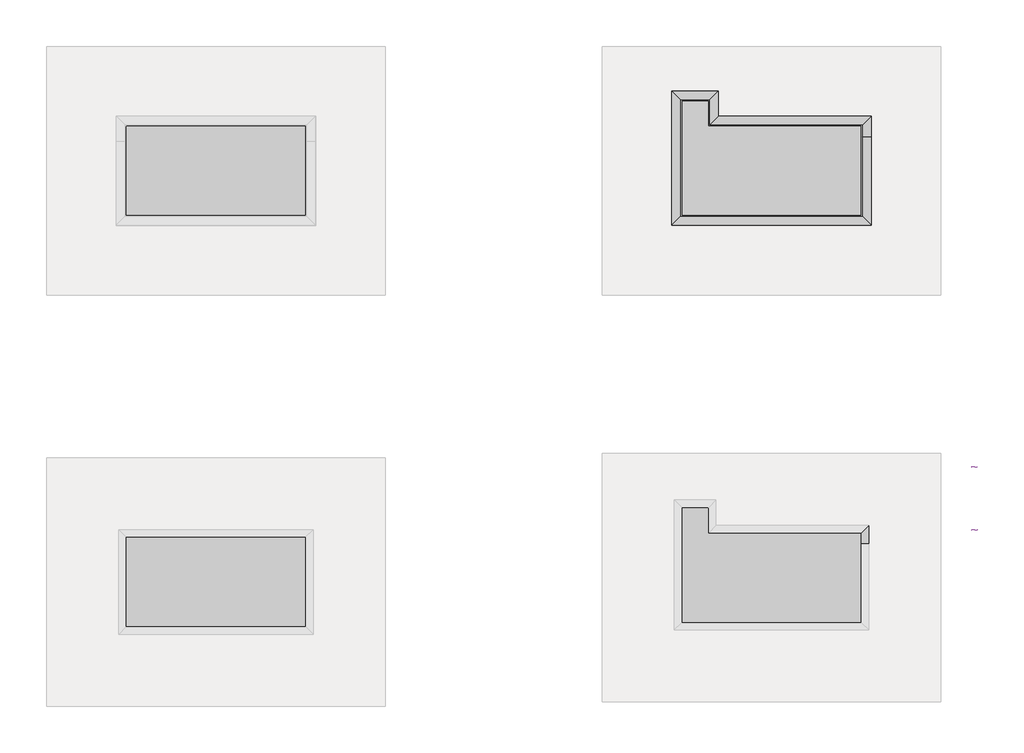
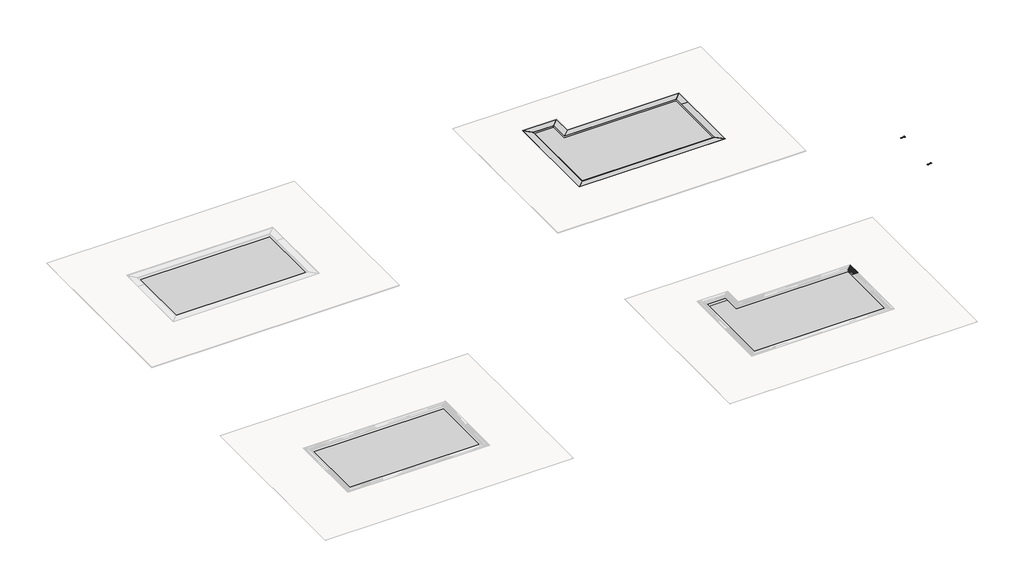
# One storey, part 8 of 8: 33 proxies.
"""IFC4 building model written with IfcOpenShell, lengths in millimetres."""

from ifc_helpers import new_model, si_unit, frame, origin, place, context, project, spatial, polyline, circle_curve, faceted_brep, transform, mapped, element, save
from ifc_brep_helpers import plane_surface, cylinder_surface, revolved_surface, advanced_brep
from components import generic_models_b0f7cce5, generic_models_22dde71d, generic_models_b073b66c, generic_models_fa50347c, generic_models_227ff7f2, generic_models_a90d31dc, generic_models_c740a98f, generic_models_2f643e7a, generic_models_adeb31d8, generic_models_0ded9d30, generic_models_3936827f, agua_piscina_1_agua_piscina_6_345880c8, agua_piscina_2_agua_piscina_5_6e25bc6c, agua_piscina_7_agua_piscina_6_79f9f0d3, agua_piscina_8_agua_piscina_5_d33188af

model = new_model("IFC4")

# Units and contexts
model_context = context("Model", 3, world=origin())
ifc_project = project(units=[si_unit("LENGTHUNIT", "METRE", prefix="MILLI")], contexts=[model_context])

# Site, building, storey
site = spatial("IfcSite", under=ifc_project)
building = spatial("IfcBuilding", under=site)
storey = spatial("IfcBuildingStorey", under=building, Name="EXAGRES_Serie YOHO_Piscinas_ejemplo", Elevation=0.0)

# Proxies
placement = place(None, origin())
element("IfcBuildingElementProxy", 1, Name="Wall Sweeps", at=placement, inside=storey, context=model_context, shape_type="Brep", body=[
    faceted_brep([(13505.1504813, -3881.1586753, -200.0), (13305.1504813, -4081.1586753, -200.0), (13105.1504813, -4281.1586753, -200.0), (13105.1504813, -4281.1586753, 0.0), (13505.1504813, -3881.1586753, 0.0), (20305.1504813, -3881.1586753, -200.0), (20305.1504813, -3881.1586753, 0.0), (19905.1504813, -4281.1586753, 0.0), (19905.1504813, -4281.1586753, -200.0), (20105.1504813, -4081.1586753, -200.0)], [[[0, 1, 2, 3, 4]], [[5, 6, 7, 8, 9]], [[3, 2, 8, 7]], [[2, 1, 0, 5, 9, 8]], [[4, 3, 7, 6]], [[0, 4, 6, 5]]]),
])
element("IfcBuildingElementProxy", 2, Name="Wall Sweeps", at=placement, inside=storey, context=model_context, shape_type="Brep", body=[
    faceted_brep([(20305.1504813, -3881.1586753, -200.0), (20105.1504813, -4081.1586753, -200.0), (19905.1504813, -4281.1586753, -200.0), (19905.1504813, -4281.1586753, 0.0), (20305.1504813, -3881.1586753, 0.0), (20305.1504813, -4813.6586753, -200.0), (20305.1504813, -4813.6586753, 0.0), (19905.1504813, -4813.6586753, 0.0), (19905.1504813, -4813.6586753, -200.0), (20105.1504813, -4813.6586753, -200.0)], [[[0, 1, 2, 3, 4]], [[5, 6, 7, 8, 9]], [[3, 2, 8, 7]], [[2, 1, 0, 5, 9, 8]], [[4, 3, 7, 6]], [[0, 4, 6, 5]]]),
])
element("IfcBuildingElementProxy", 3, Name="Wall Sweeps", at=placement, inside=storey, context=model_context, shape_type="Brep", body=[
    faceted_brep([(20305.1504813, -8731.1586753, -200.0), (19905.1504813, -8331.1586753, -200.0), (19905.1504813, -8331.1586753, 0.0), (20305.1504813, -8731.1586753, 0.0), (11455.1504813, -8731.1586753, -200.0), (11455.1504813, -8731.1586753, 0.0), (11855.1504813, -8331.1586753, 0.0), (11855.1504813, -8331.1586753, -200.0), (11655.1504813, -8531.1586753, -200.0)], [[[0, 1, 2, 3]], [[4, 5, 6, 7, 8]], [[2, 1, 7, 6]], [[1, 0, 4, 8, 7]], [[3, 2, 6, 5]], [[0, 3, 5, 4]]]),
])
element("IfcBuildingElementProxy", 4, Name="Wall Sweeps", at=placement, inside=storey, context=model_context, shape_type="Brep", body=[
    faceted_brep([(11455.1504813, -8731.1586753, -200.0), (11655.1504813, -8531.1586753, -200.0), (11855.1504813, -8331.1586753, -200.0), (11855.1504813, -8331.1586753, 0.0), (11455.1504813, -8731.1586753, 0.0), (11455.1504813, -2761.1586753, -200.0), (11455.1504813, -2761.1586753, 0.0), (11855.1504813, -3161.1586753, 0.0), (11855.1504813, -3161.1586753, -100.0), (11855.1504813, -3161.1586753, -109.0), (11855.1504813, -3161.1586753, -200.0), (11655.1504813, -2961.1586753, -200.0), (11855.1504813, -3702.2586753, -200.0), (11855.1504813, -3426.1586753, -200.0)], [[[0, 1, 2, 3, 4]], [[5, 6, 7, 8, 9, 10, 11]], [[3, 2, 12, 13, 10, 9, 8, 7]], [[2, 1, 0, 5, 11, 10, 13, 12]], [[4, 3, 7, 6]], [[0, 4, 6, 5]]]),
])
element("IfcBuildingElementProxy", 5, Name="Wall Sweeps", at=placement, inside=storey, context=model_context, shape_type="Brep", body=[
    faceted_brep([(13505.1504813, -3881.1586753, -200.0), (13505.1504813, -3881.1586753, 0.0), (13105.1504813, -4281.1586753, 0.0), (13105.1504813, -4281.1586753, -200.0), (13305.1504813, -4081.1586753, -200.0), (13505.1504813, -2761.1586753, -200.0), (13305.1504813, -2961.1586753, -200.0), (13105.1504813, -3161.1586753, -200.0), (13105.1504813, -3161.1586753, -109.0), (13105.1504813, -3161.1586753, -100.0), (13105.1504813, -3161.1586753, 0.0), (13505.1504813, -2761.1586753, 0.0), (13105.1504813, -3726.1586753, -200.0), (13105.1504813, -3702.2586753, -200.0), (13105.1504813, -3426.1586753, -200.0)], [[[0, 1, 2, 3, 4]], [[5, 6, 7, 8, 9, 10, 11]], [[0, 4, 3, 12, 13, 14, 7, 6, 5]], [[3, 2, 10, 9, 8, 7, 14, 13, 12]], [[1, 0, 5, 11]], [[2, 1, 11, 10]]]),
])
element("IfcBuildingElementProxy", 6, Name="Wall Sweeps", at=placement, inside=storey, context=model_context, shape_type="Brep", body=[
    faceted_brep([(11455.1504813, -2761.1586753, -200.0), (11655.1504813, -2961.1586753, -200.0), (11855.1504813, -3161.1586753, -200.0), (11855.1504813, -3161.1586753, -109.0), (11855.1504813, -3161.1586753, -100.0), (11855.1504813, -3161.1586753, 0.0), (11455.1504813, -2761.1586753, 0.0), (13105.1504813, -3161.1586753, -200.0), (13305.1504813, -2961.1586753, -200.0), (13505.1504813, -2761.1586753, -200.0), (13505.1504813, -2761.1586753, 0.0), (13105.1504813, -3161.1586753, 0.0), (13105.1504813, -3161.1586753, -100.0), (13105.1504813, -3161.1586753, -109.0), (13105.1504813, -3126.1586753, -109.0), (11855.1504813, -3126.1586753, -109.0), (11855.1504813, -3126.1586753, -100.0), (13105.1504813, -3126.1586753, -100.0)], [[[0, 1, 2, 3, 4, 5, 6]], [[7, 8, 9, 10, 11, 12, 13]], [[2, 7, 13, 3]], [[11, 5, 4, 12]], [[2, 1, 0, 9, 8, 7]], [[6, 5, 11, 10]], [[0, 6, 10, 9]], [[14, 15, 3, 13]], [[16, 17, 12, 4]], [[17, 14, 13, 12]], [[15, 16, 4, 3]], [[15, 14, 17, 16]]]),
])
element("IfcBuildingElementProxy", 7, Name="Wall Sweeps", at=placement, inside=storey, context=model_context, shape_type="Brep", body=[
    faceted_brep([(20305.1504813, -4813.6586753, -200.0), (20105.1504813, -4813.6586753, -200.0), (19905.1504813, -4813.6586753, -200.0), (19905.1504813, -4813.6586753, 0.0), (20305.1504813, -4813.6586753, 0.0), (20305.1504813, -8731.1586753, -200.0), (20305.1504813, -8731.1586753, 0.0), (19905.1504813, -8331.1586753, 0.0), (19905.1504813, -8331.1586753, -200.0), (19905.1504813, -8306.1586753, -200.0), (19905.1504813, -8306.1586753, 0.0)], [[[0, 1, 2, 3, 4]], [[5, 6, 7, 8]], [[2, 1, 0, 5, 8, 9]], [[3, 2, 9, 8, 7, 10]], [[4, 3, 10, 7, 6]], [[0, 4, 6, 5]]]),
])
element("IfcBuildingElementProxy", 8, Name="EXAGRES - Piscina Arista : Publica_Azul_24.5x3cm", ObjectType="EXAGRES - Piscina Arista : Publica_Azul_24.5x3cm", at=placement, inside=storey, context=model_context, shape_type="AdvancedBrep", body=[
    advanced_brep(
    [(11855.1504813, -4306.1586753, -423.9), (11855.1504813, -4282.2586753, -400.0), (11855.1504813, -4282.2586753, -406.4), (11855.1504813, -4299.7586753, -423.9), (13080.1504813, -4306.1586753, -423.9), (13080.1504813, -4299.7586753, -423.9), (13080.1504813, -4282.2586753, -406.4), (13080.1504813, -4282.2586753, -400.0), (11880.1504813, -4306.1586753, -423.9), (11880.1504813, -4282.2586753, -406.4), (11880.1504813, -4299.7586753, -423.9)],
    [
        (0, 1, circle_curve(frame((11855.1504813, -4282.2586753, -423.9), z_axis=(-1.0, 0.0, 0.0), x_axis=(0.0, 1.0, 0.0)), 23.9)),
        (1, 2),
        (2, 3, circle_curve(frame((11855.1504813, -4282.2586753, -423.9), z_axis=(1.0, 0.0, 0.0), x_axis=(0.0, 1.0, 0.0)), 17.5)),
        (3, 0),
        (4, 5),
        (5, 6, circle_curve(frame((13080.1504813, -4282.2586753, -423.9), z_axis=(-1.0, 0.0, 0.0), x_axis=(0.0, 1.0, 0.0)), 17.5)),
        (6, 7),
        (7, 4, circle_curve(frame((13080.1504813, -4282.2586753, -423.9), z_axis=(1.0, 0.0, 0.0), x_axis=(0.0, 1.0, 0.0)), 23.9)),
        (0, 8),
        (8, 4),
        (7, 1),
        (6, 9),
        (9, 2),
        (5, 10),
        (10, 3),
    ],
    [
        plane_surface(frame((11855.1504813, -4306.1586753, -400.0), z_axis=(-1.0, 0.0, 0.0), x_axis=(0.0, 0.0, 1.0))),
        plane_surface(frame((13080.1504813, -4306.1586753, -400.0), z_axis=(1.0, 0.0, 0.0), x_axis=(0.0, 0.0, 1.0))),
        cylinder_surface(frame((11855.1504813, -4282.2586753, -423.9), z_axis=(-1.0, 0.0, 0.0), x_axis=(0.0, 1.0, 0.0)), 23.9),
        plane_surface(frame((11855.1504813, -4282.2586753, -400.0), z_axis=(0.0, 1.0, 0.0), x_axis=(1.0, 0.0, 0.0))),
        revolved_surface(polyline([(13080.1504813, -4264.7586753, -423.9), (11855.1504813, -4264.7586753, -423.9)]), (11855.1504813, -4282.2586753, -423.9), (1.0, 0.0, 0.0)),
        plane_surface(frame((11855.1504813, -4299.7586753, -423.9), z_axis=(0.0, 0.0, -1.0), x_axis=(1.0, 0.0, 0.0))),
    ],
    [
        (0, [[1, 2, 3, 4]]),
        (1, [[5, 6, 7, 8]]),
        (2, [[-1, 9, 10, -8, 11]]),
        (3, [[-2, -11, -7, 12, 13]]),
        (4, [[-3, -13, -12, -6, 14, 15]]),
        (5, [[-4, -15, -14, -5, -10, -9]]),
    ],
),
])
element("IfcBuildingElementProxy", 9, Name="EXAGRES - Piscina Arista : Publica_Azul_24.5x3cm", ObjectType="EXAGRES - Piscina Arista : Publica_Azul_24.5x3cm", at=placement, inside=storey, context=model_context, shape_type="AdvancedBrep", body=[
    advanced_brep(
    [(11855.1504813, -4026.1586753, -323.9), (11855.1504813, -4002.2586753, -300.0), (11855.1504813, -4002.2586753, -306.4), (11855.1504813, -4019.7586753, -323.9), (13105.1504813, -4026.1586753, -323.9), (13105.1504813, -4019.7586753, -323.9), (13105.1504813, -4002.2586753, -306.4), (13105.1504813, -4002.2586753, -300.0), (11880.1504813, -4026.1586753, -323.9), (13080.1504813, -4026.1586753, -323.9), (13080.1504813, -4002.2586753, -306.4), (11880.1504813, -4002.2586753, -306.4), (13080.1504813, -4019.7586753, -323.9), (11880.1504813, -4019.7586753, -323.9)],
    [
        (0, 1, circle_curve(frame((11855.1504813, -4002.2586753, -323.9), z_axis=(-1.0, 0.0, 0.0), x_axis=(0.0, 1.0, 0.0)), 23.9)),
        (1, 2),
        (2, 3, circle_curve(frame((11855.1504813, -4002.2586753, -323.9), z_axis=(1.0, 0.0, 0.0), x_axis=(0.0, 1.0, 0.0)), 17.5)),
        (3, 0),
        (4, 5),
        (5, 6, circle_curve(frame((13105.1504813, -4002.2586753, -323.9), z_axis=(-1.0, 0.0, 0.0), x_axis=(0.0, 1.0, 0.0)), 17.5)),
        (6, 7),
        (7, 4, circle_curve(frame((13105.1504813, -4002.2586753, -323.9), z_axis=(1.0, 0.0, 0.0), x_axis=(0.0, 1.0, 0.0)), 23.9)),
        (0, 8),
        (8, 9),
        (9, 4),
        (7, 1),
        (6, 10),
        (10, 11),
        (11, 2),
        (5, 12),
        (12, 13),
        (13, 3),
    ],
    [
        plane_surface(frame((11855.1504813, -4026.1586753, -300.0), z_axis=(-1.0, 0.0, 0.0), x_axis=(0.0, 0.0, 1.0))),
        plane_surface(frame((13105.1504813, -4026.1586753, -300.0), z_axis=(1.0, 0.0, 0.0), x_axis=(0.0, 0.0, 1.0))),
        cylinder_surface(frame((11855.1504813, -4002.2586753, -323.9), z_axis=(-1.0, 0.0, 0.0), x_axis=(0.0, 1.0, 0.0)), 23.9),
        plane_surface(frame((11855.1504813, -4002.2586753, -300.0), z_axis=(0.0, 1.0, 0.0), x_axis=(1.0, 0.0, 0.0))),
        revolved_surface(polyline([(13105.1504813, -3984.7586753, -323.9), (11855.1504813, -3984.7586753, -323.9)]), (11855.1504813, -4002.2586753, -323.9), (1.0, 0.0, 0.0)),
        plane_surface(frame((11855.1504813, -4019.7586753, -323.9), z_axis=(0.0, 0.0, -1.0), x_axis=(1.0, 0.0, 0.0))),
    ],
    [
        (0, [[1, 2, 3, 4]]),
        (1, [[5, 6, 7, 8]]),
        (2, [[-1, 9, 10, 11, -8, 12]]),
        (3, [[-2, -12, -7, 13, 14, 15]]),
        (4, [[-3, -15, -14, -13, -6, 16, 17, 18]]),
        (5, [[-4, -18, -17, -16, -5, -11, -10, -9]]),
    ],
),
])
element("IfcBuildingElementProxy", 10, Name="EXAGRES - Piscina Arista : Publica_Azul_24.5x3cm", ObjectType="EXAGRES - Piscina Arista : Publica_Azul_24.5x3cm", at=placement, inside=storey, context=model_context, shape_type="AdvancedBrep", body=[
    advanced_brep(
    [(11855.1504813, -3726.1586753, -223.9), (11855.1504813, -3702.2586753, -200.0), (11855.1504813, -3702.2586753, -206.4), (11855.1504813, -3719.7586753, -223.9), (13105.1504813, -3726.1586753, -223.9), (13105.1504813, -3719.7586753, -223.9), (13105.1504813, -3702.2586753, -206.4), (13105.1504813, -3702.2586753, -200.0), (11880.1504813, -3726.1586753, -223.9), (13080.1504813, -3726.1586753, -223.9), (13080.1504813, -3702.2586753, -206.4), (11880.1504813, -3702.2586753, -206.4), (13080.1504813, -3719.7586753, -223.9), (11880.1504813, -3719.7586753, -223.9)],
    [
        (0, 1, circle_curve(frame((11855.1504813, -3702.2586753, -223.9), z_axis=(-1.0, 0.0, 0.0), x_axis=(0.0, 1.0, 0.0)), 23.9)),
        (1, 2),
        (2, 3, circle_curve(frame((11855.1504813, -3702.2586753, -223.9), z_axis=(1.0, 0.0, 0.0), x_axis=(0.0, 1.0, 0.0)), 17.5)),
        (3, 0),
        (4, 5),
        (5, 6, circle_curve(frame((13105.1504813, -3702.2586753, -223.9), z_axis=(-1.0, 0.0, 0.0), x_axis=(0.0, 1.0, 0.0)), 17.5)),
        (6, 7),
        (7, 4, circle_curve(frame((13105.1504813, -3702.2586753, -223.9), z_axis=(1.0, 0.0, 0.0), x_axis=(0.0, 1.0, 0.0)), 23.9)),
        (0, 8),
        (8, 9),
        (9, 4),
        (7, 1),
        (6, 10),
        (10, 11),
        (11, 2),
        (5, 12),
        (12, 13),
        (13, 3),
    ],
    [
        plane_surface(frame((11855.1504813, -3726.1586753, -200.0), z_axis=(-1.0, 0.0, 0.0), x_axis=(0.0, 0.0, 1.0))),
        plane_surface(frame((13105.1504813, -3726.1586753, -200.0), z_axis=(1.0, 0.0, 0.0), x_axis=(0.0, 0.0, 1.0))),
        cylinder_surface(frame((11855.1504813, -3702.2586753, -223.9), z_axis=(-1.0, 0.0, 0.0), x_axis=(0.0, 1.0, 0.0)), 23.9),
        plane_surface(frame((11855.1504813, -3702.2586753, -200.0), z_axis=(0.0, 1.0, 0.0), x_axis=(1.0, 0.0, 0.0))),
        revolved_surface(polyline([(13105.1504813, -3684.7586753, -223.9), (11855.1504813, -3684.7586753, -223.9)]), (11855.1504813, -3702.2586753, -223.9), (1.0, 0.0, 0.0)),
        plane_surface(frame((11855.1504813, -3719.7586753, -223.9), z_axis=(0.0, 0.0, -1.0), x_axis=(1.0, 0.0, 0.0))),
    ],
    [
        (0, [[1, 2, 3, 4]]),
        (1, [[5, 6, 7, 8]]),
        (2, [[-1, 9, 10, 11, -8, 12]]),
        (3, [[-2, -12, -7, 13, 14, 15]]),
        (4, [[-3, -15, -14, -13, -6, 16, 17, 18]]),
        (5, [[-4, -18, -17, -16, -5, -11, -10, -9]]),
    ],
),
])
element("IfcBuildingElementProxy", 11, Name="EXAGRES - Piscina Arista : Publica_Azul_24.5x3cm", ObjectType="EXAGRES - Piscina Arista : Publica_Azul_24.5x3cm", at=placement, inside=storey, context=model_context, shape_type="AdvancedBrep", body=[
    advanced_brep(
    [(13105.1504813, -3426.1586753, -123.9), (13105.1504813, -3419.7586753, -123.9), (13105.1504813, -3402.2586753, -106.4), (13105.1504813, -3402.2586753, -100.0), (11880.1504813, -3402.2586753, -100.0), (11880.1504813, -3426.1586753, -123.9), (13080.1504813, -3426.1586753, -123.9), (13080.1504813, -3402.2586753, -106.4), (11880.1504813, -3402.2586753, -106.4), (13080.1504813, -3419.7586753, -123.9), (11880.1504813, -3419.7586753, -123.9)],
    [
        (0, 1),
        (1, 2, circle_curve(frame((13105.1504813, -3402.2586753, -123.9), z_axis=(-1.0, 0.0, 0.0), x_axis=(0.0, 1.0, 0.0)), 17.5)),
        (2, 3),
        (3, 0, circle_curve(frame((13105.1504813, -3402.2586753, -123.9), z_axis=(1.0, 0.0, 0.0), x_axis=(0.0, 1.0, 0.0)), 23.9)),
        (3, 4),
        (4, 5, circle_curve(frame((11880.1504813, -3402.2586753, -123.9), z_axis=(1.0, 0.0, 0.0), x_axis=(0.0, 1.0, 0.0)), 23.9)),
        (5, 6),
        (6, 0),
        (2, 7),
        (7, 8),
        (8, 4),
        (1, 9),
        (9, 10),
        (10, 8, circle_curve(frame((11880.1504813, -3402.2586753, -123.9), z_axis=(-1.0, 0.0, 0.0), x_axis=(0.0, 1.0, 0.0)), 17.5)),
        (5, 10),
    ],
    [
        plane_surface(frame((13105.1504813, -3426.1586753, -100.0), z_axis=(1.0, 0.0, 0.0), x_axis=(0.0, 0.0, 1.0))),
        cylinder_surface(frame((11855.1504813, -3402.2586753, -123.9), z_axis=(-1.0, 0.0, 0.0), x_axis=(0.0, 1.0, 0.0)), 23.9),
        plane_surface(frame((11855.1504813, -3402.2586753, -100.0), z_axis=(0.0, 1.0, 0.0), x_axis=(1.0, 0.0, 0.0))),
        revolved_surface(polyline([(13105.1504813, -3384.7586753, -123.9), (11880.1504813, -3384.7586753, -123.9)]), (11855.1504813, -3402.2586753, -123.9), (1.0, 0.0, 0.0)),
        plane_surface(frame((11855.1504813, -3419.7586753, -123.9), z_axis=(0.0, 0.0, -1.0), x_axis=(1.0, 0.0, 0.0))),
        plane_surface(frame((11880.1504813, -8306.1586753, -500.0), z_axis=(-1.0, 0.0, 0.0), x_axis=(0.0, 1.0, 0.0))),
    ],
    [
        (0, [[1, 2, 3, 4]]),
        (1, [[-4, 5, 6, 7, 8]]),
        (2, [[-3, 9, 10, 11, -5]]),
        (3, [[-2, 12, 13, 14, -10, -9]]),
        (4, [[-1, -8, -7, 15, -13, -12]]),
        (5, [[-6, -11, -14, -15]]),
    ],
),
])
element("IfcBuildingElementProxy", 12, Name="Wall Sweeps", at=placement, inside=storey, context=model_context, shape_type="Brep", body=[
    faceted_brep([(19893.1504813, -22393.1586753, 0.0), (19880.1504813, -22406.1586753, 0.0), (19880.1504813, -22406.1586753, 33.0), (20210.1504813, -22076.1586753, 33.0), (20210.1504813, -22076.1586753, 21.0), (20204.1504813, -22082.1586753, 21.0), (20204.1504813, -22082.1586753, 22.0), (20200.1504813, -22086.1586753, 22.0), (20200.1504813, -22086.1586753, 21.0), (20194.1504813, -22092.1586753, 21.0), (20194.1504813, -22092.1586753, 22.0), (20190.1504813, -22096.1586753, 22.0), (20190.1504813, -22096.1586753, 21.0), (20184.1504813, -22102.1586753, 21.0), (20184.1504813, -22102.1586753, 22.0), (20180.1504813, -22106.1586753, 22.0), (20180.1504813, -22106.1586753, 21.0), (20174.1504813, -22112.1586753, 21.0), (20174.1504813, -22112.1586753, 22.0), (20170.1504813, -22116.1586753, 22.0), (20170.1504813, -22116.1586753, 21.0), (20164.1504813, -22122.1586753, 21.0), (20164.1504813, -22122.1586753, 22.0), (20160.1504813, -22126.1586753, 22.0), (20160.1504813, -22126.1586753, 21.0), (20154.1504813, -22132.1586753, 21.0), (20154.1504813, -22132.1586753, 22.0), (20150.1504813, -22136.1586753, 22.0), (20150.1504813, -22136.1586753, 21.0), (20144.1504813, -22142.1586753, 21.0), (20144.1504813, -22142.1586753, 22.0), (20140.1504813, -22146.1586753, 22.0), (20140.1504813, -22146.1586753, 21.0), (20134.1504813, -22152.1586753, 21.0), (20134.1504813, -22152.1586753, 22.0), (20130.1504813, -22156.1586753, 22.0), (20130.1504813, -22156.1586753, 21.0), (20124.1504813, -22162.1586753, 21.0), (20124.1504813, -22162.1586753, 22.0), (20120.1504813, -22166.1586753, 22.0), (20120.1504813, -22166.1586753, 21.0), (20114.1504813, -22172.1586753, 21.0), (20114.1504813, -22172.1586753, 22.0), (20110.1504813, -22176.1586753, 22.0), (20110.1504813, -22176.1586753, 21.0), (20104.1504813, -22182.1586753, 21.0), (20104.1504813, -22182.1586753, 22.0), (20100.1504813, -22186.1586753, 22.0), (20100.1504813, -22186.1586753, 21.0), (20094.1504813, -22192.1586753, 21.0), (20094.1504813, -22192.1586753, 22.0), (20090.1504813, -22196.1586753, 22.0), (20090.1504813, -22196.1586753, 21.0), (20084.1504813, -22202.1586753, 21.0), (20084.1504813, -22202.1586753, 22.0), (20080.1504813, -22206.1586753, 22.0), (20080.1504813, -22206.1586753, 21.0), (20074.1504813, -22212.1586753, 21.0), (20074.1504813, -22212.1586753, 22.0), (20070.1504813, -22216.1586753, 22.0), (20070.1504813, -22216.1586753, 21.0), (20064.1504813, -22222.1586753, 21.0), (20064.1504813, -22222.1586753, 22.0), (20060.1504813, -22226.1586753, 22.0), (20060.1504813, -22226.1586753, 21.0), (20054.1504813, -22232.1586753, 21.0), (20054.1504813, -22232.1586753, 22.0), (20050.1504813, -22236.1586753, 22.0), (20050.1504813, -22236.1586753, 21.0), (20044.1504813, -22242.1586753, 21.0), (20044.1504813, -22242.1586753, 22.0), (20040.1504813, -22246.1586753, 22.0), (20040.1504813, -22246.1586753, 21.0), (20034.1504813, -22252.1586753, 21.0), (20034.1504813, -22252.1586753, 22.0), (20030.1504813, -22256.1586753, 22.0), (20030.1504813, -22256.1586753, 21.0), (20024.1504813, -22262.1586753, 21.0), (20024.1504813, -22262.1586753, 22.0), (20020.1504813, -22266.1586753, 22.0), (20020.1504813, -22266.1586753, 21.0), (20014.1504813, -22272.1586753, 21.0), (20014.1504813, -22272.1586753, 22.0), (20010.1504813, -22276.1586753, 22.0), (20010.1504813, -22276.1586753, 21.0), (20004.1504813, -22282.1586753, 21.0), (20004.1504813, -22282.1586753, 22.0), (20000.1504813, -22286.1586753, 22.0), (20000.1504813, -22286.1586753, 21.0), (19994.1504813, -22292.1586753, 21.0), (19994.1504813, -22292.1586753, 22.0), (19990.1504813, -22296.1586753, 22.0), (19990.1504813, -22296.1586753, 21.0), (19984.1504813, -22302.1586753, 21.0), (19984.1504813, -22302.1586753, 22.0), (19980.1504813, -22306.1586753, 22.0), (19980.1504813, -22306.1586753, 21.0), (19974.1504813, -22312.1586753, 21.0), (19974.1504813, -22312.1586753, 22.0), (19970.1504813, -22316.1586753, 22.0), (19970.1504813, -22316.1586753, 21.0), (19964.1504813, -22322.1586753, 21.0), (19964.1504813, -22322.1586753, 22.0), (19960.1504813, -22326.1586753, 22.0), (19960.1504813, -22326.1586753, 21.0), (19954.1504813, -22332.1586753, 21.0), (19954.1504813, -22332.1586753, 22.0), (19950.1504813, -22336.1586753, 22.0), (19950.1504813, -22336.1586753, 21.0), (19944.1504813, -22342.1586753, 21.0), (19944.1504813, -22342.1586753, 22.0), (19940.1504813, -22346.1586753, 22.0), (19940.1504813, -22346.1586753, 21.0), (19934.1504813, -22352.1586753, 21.0), (19934.1504813, -22352.1586753, 22.0), (19930.1504813, -22356.1586753, 22.0), (19930.1504813, -22356.1586753, 21.0), (19924.1504813, -22362.1586753, 21.0), (19924.1504813, -22362.1586753, 22.0), (19920.1504813, -22366.1586753, 22.0), (19920.1504813, -22366.1586753, 21.0), (19914.1504813, -22372.1586753, 21.0), (19914.1504813, -22372.1586753, 22.0), (19910.1504813, -22376.1586753, 22.0), (19910.1504813, -22376.1586753, 21.0), (19904.1504813, -22382.1586753, 21.0), (19904.1504813, -22382.1586753, 22.0), (19900.1504813, -22386.1586753, 22.0), (19900.1504813, -22386.1586753, 21.0), (19893.1504813, -22393.1586753, 21.0), (19893.1504813, -22393.1586753, 14.0), (19892.1504813, -22394.1586753, 14.0), (19892.1504813, -22394.1586753, 8.0), (19893.1504813, -22393.1586753, 8.0), (19893.1504813, -22913.6586753, 0.0), (19893.1504813, -22913.6586753, 8.0), (19892.1504813, -22913.6586753, 8.0), (19892.1504813, -22913.6586753, 14.0), (19893.1504813, -22913.6586753, 14.0), (19893.1504813, -22913.6586753, 21.0), (19900.1504813, -22913.6586753, 21.0), (19900.1504813, -22913.6586753, 22.0), (19904.1504813, -22913.6586753, 22.0), (19904.1504813, -22913.6586753, 21.0), (19910.1504813, -22913.6586753, 21.0), (19910.1504813, -22913.6586753, 22.0), (19914.1504813, -22913.6586753, 22.0), (19914.1504813, -22913.6586753, 21.0), (19920.1504813, -22913.6586753, 21.0), (19920.1504813, -22913.6586753, 22.0), (19924.1504813, -22913.6586753, 22.0), (19924.1504813, -22913.6586753, 21.0), (19930.1504813, -22913.6586753, 21.0), (19930.1504813, -22913.6586753, 22.0), (19934.1504813, -22913.6586753, 22.0), (19934.1504813, -22913.6586753, 21.0), (19940.1504813, -22913.6586753, 21.0), (19940.1504813, -22913.6586753, 22.0), (19944.1504813, -22913.6586753, 22.0), (19944.1504813, -22913.6586753, 21.0), (19950.1504813, -22913.6586753, 21.0), (19950.1504813, -22913.6586753, 22.0), (19954.1504813, -22913.6586753, 22.0), (19954.1504813, -22913.6586753, 21.0), (19960.1504813, -22913.6586753, 21.0), (19960.1504813, -22913.6586753, 22.0), (19964.1504813, -22913.6586753, 22.0), (19964.1504813, -22913.6586753, 21.0), (19970.1504813, -22913.6586753, 21.0), (19970.1504813, -22913.6586753, 22.0), (19974.1504813, -22913.6586753, 22.0), (19974.1504813, -22913.6586753, 21.0), (19980.1504813, -22913.6586753, 21.0), (19980.1504813, -22913.6586753, 22.0), (19984.1504813, -22913.6586753, 22.0), (19984.1504813, -22913.6586753, 21.0), (19990.1504813, -22913.6586753, 21.0), (19990.1504813, -22913.6586753, 22.0), (19994.1504813, -22913.6586753, 22.0), (19994.1504813, -22913.6586753, 21.0), (20000.1504813, -22913.6586753, 21.0), (20000.1504813, -22913.6586753, 22.0), (20004.1504813, -22913.6586753, 22.0), (20004.1504813, -22913.6586753, 21.0), (20010.1504813, -22913.6586753, 21.0), (20010.1504813, -22913.6586753, 22.0), (20014.1504813, -22913.6586753, 22.0), (20014.1504813, -22913.6586753, 21.0), (20020.1504813, -22913.6586753, 21.0), (20020.1504813, -22913.6586753, 22.0), (20024.1504813, -22913.6586753, 22.0), (20024.1504813, -22913.6586753, 21.0), (20030.1504813, -22913.6586753, 21.0), (20030.1504813, -22913.6586753, 22.0), (20034.1504813, -22913.6586753, 22.0), (20034.1504813, -22913.6586753, 21.0), (20040.1504813, -22913.6586753, 21.0), (20040.1504813, -22913.6586753, 22.0), (20044.1504813, -22913.6586753, 22.0), (20044.1504813, -22913.6586753, 21.0), (20050.1504813, -22913.6586753, 21.0), (20050.1504813, -22913.6586753, 22.0), (20054.1504813, -22913.6586753, 22.0), (20054.1504813, -22913.6586753, 21.0), (20060.1504813, -22913.6586753, 21.0), (20060.1504813, -22913.6586753, 22.0), (20064.1504813, -22913.6586753, 22.0), (20064.1504813, -22913.6586753, 21.0), (20070.1504813, -22913.6586753, 21.0), (20070.1504813, -22913.6586753, 22.0), (20074.1504813, -22913.6586753, 22.0), (20074.1504813, -22913.6586753, 21.0), (20080.1504813, -22913.6586753, 21.0), (20080.1504813, -22913.6586753, 22.0), (20084.1504813, -22913.6586753, 22.0), (20084.1504813, -22913.6586753, 21.0), (20090.1504813, -22913.6586753, 21.0), (20090.1504813, -22913.6586753, 22.0), (20094.1504813, -22913.6586753, 22.0), (20094.1504813, -22913.6586753, 21.0), (20100.1504813, -22913.6586753, 21.0), (20100.1504813, -22913.6586753, 22.0), (20104.1504813, -22913.6586753, 22.0), (20104.1504813, -22913.6586753, 21.0), (20110.1504813, -22913.6586753, 21.0), (20110.1504813, -22913.6586753, 22.0), (20114.1504813, -22913.6586753, 22.0), (20114.1504813, -22913.6586753, 21.0), (20120.1504813, -22913.6586753, 21.0), (20120.1504813, -22913.6586753, 22.0), (20124.1504813, -22913.6586753, 22.0), (20124.1504813, -22913.6586753, 21.0), (20130.1504813, -22913.6586753, 21.0), (20130.1504813, -22913.6586753, 22.0), (20134.1504813, -22913.6586753, 22.0), (20134.1504813, -22913.6586753, 21.0), (20140.1504813, -22913.6586753, 21.0), (20140.1504813, -22913.6586753, 22.0), (20144.1504813, -22913.6586753, 22.0), (20144.1504813, -22913.6586753, 21.0), (20150.1504813, -22913.6586753, 21.0), (20150.1504813, -22913.6586753, 22.0), (20154.1504813, -22913.6586753, 22.0), (20154.1504813, -22913.6586753, 21.0), (20160.1504813, -22913.6586753, 21.0), (20160.1504813, -22913.6586753, 22.0), (20164.1504813, -22913.6586753, 22.0), (20164.1504813, -22913.6586753, 21.0), (20170.1504813, -22913.6586753, 21.0), (20170.1504813, -22913.6586753, 22.0), (20174.1504813, -22913.6586753, 22.0), (20174.1504813, -22913.6586753, 21.0), (20180.1504813, -22913.6586753, 21.0), (20180.1504813, -22913.6586753, 22.0), (20184.1504813, -22913.6586753, 22.0), (20184.1504813, -22913.6586753, 21.0), (20190.1504813, -22913.6586753, 21.0), (20190.1504813, -22913.6586753, 22.0), (20194.1504813, -22913.6586753, 22.0), (20194.1504813, -22913.6586753, 21.0), (20200.1504813, -22913.6586753, 21.0), (20200.1504813, -22913.6586753, 22.0), (20204.1504813, -22913.6586753, 22.0), (20204.1504813, -22913.6586753, 21.0), (20210.1504813, -22913.6586753, 21.0), (20210.1504813, -22913.6586753, 33.0), (19880.1504813, -22913.6586753, 33.0), (19880.1504813, -22913.6586753, 0.0)], [[[0, 1, 2, 3, 4, 5, 6, 7, 8, 9, 10, 11, 12, 13, 14, 15, 16, 17, 18, 19, 20, 21, 22, 23, 24, 25, 26, 27, 28, 29, 30, 31, 32, 33, 34, 35, 36, 37, 38, 39, 40, 41, 42, 43, 44, 45, 46, 47, 48, 49, 50, 51, 52, 53, 54, 55, 56, 57, 58, 59, 60, 61, 62, 63, 64, 65, 66, 67, 68, 69, 70, 71, 72, 73, 74, 75, 76, 77, 78, 79, 80, 81, 82, 83, 84, 85, 86, 87, 88, 89, 90, 91, 92, 93, 94, 95, 96, 97, 98, 99, 100, 101, 102, 103, 104, 105, 106, 107, 108, 109, 110, 111, 112, 113, 114, 115, 116, 117, 118, 119, 120, 121, 122, 123, 124, 125, 126, 127, 128, 129, 130, 131, 132, 133]], [[134, 135, 136, 137, 138, 139, 140, 141, 142, 143, 144, 145, 146, 147, 148, 149, 150, 151, 152, 153, 154, 155, 156, 157, 158, 159, 160, 161, 162, 163, 164, 165, 166, 167, 168, 169, 170, 171, 172, 173, 174, 175, 176, 177, 178, 179, 180, 181, 182, 183, 184, 185, 186, 187, 188, 189, 190, 191, 192, 193, 194, 195, 196, 197, 198, 199, 200, 201, 202, 203, 204, 205, 206, 207, 208, 209, 210, 211, 212, 213, 214, 215, 216, 217, 218, 219, 220, 221, 222, 223, 224, 225, 226, 227, 228, 229, 230, 231, 232, 233, 234, 235, 236, 237, 238, 239, 240, 241, 242, 243, 244, 245, 246, 247, 248, 249, 250, 251, 252, 253, 254, 255, 256, 257, 258, 259, 260, 261, 262, 263, 264, 265, 266, 267]], [[1, 0, 134, 267]], [[2, 1, 267, 266]], [[3, 2, 266, 265]], [[4, 3, 265, 264]], [[5, 4, 264, 263]], [[6, 5, 263, 262]], [[7, 6, 262, 261]], [[8, 7, 261, 260]], [[9, 8, 260, 259]], [[10, 9, 259, 258]], [[11, 10, 258, 257]], [[12, 11, 257, 256]], [[13, 12, 256, 255]], [[14, 13, 255, 254]], [[15, 14, 254, 253]], [[16, 15, 253, 252]], [[17, 16, 252, 251]], [[18, 17, 251, 250]], [[19, 18, 250, 249]], [[20, 19, 249, 248]], [[21, 20, 248, 247]], [[22, 21, 247, 246]], [[23, 22, 246, 245]], [[24, 23, 245, 244]], [[25, 24, 244, 243]], [[26, 25, 243, 242]], [[27, 26, 242, 241]], [[28, 27, 241, 240]], [[29, 28, 240, 239]], [[30, 29, 239, 238]], [[31, 30, 238, 237]], [[32, 31, 237, 236]], [[33, 32, 236, 235]], [[34, 33, 235, 234]], [[35, 34, 234, 233]], [[36, 35, 233, 232]], [[37, 36, 232, 231]], [[38, 37, 231, 230]], [[39, 38, 230, 229]], [[40, 39, 229, 228]], [[41, 40, 228, 227]], [[42, 41, 227, 226]], [[43, 42, 226, 225]], [[44, 43, 225, 224]], [[45, 44, 224, 223]], [[46, 45, 223, 222]], [[47, 46, 222, 221]], [[48, 47, 221, 220]], [[49, 48, 220, 219]], [[50, 49, 219, 218]], [[51, 50, 218, 217]], [[52, 51, 217, 216]], [[53, 52, 216, 215]], [[54, 53, 215, 214]], [[55, 54, 214, 213]], [[56, 55, 213, 212]], [[57, 56, 212, 211]], [[58, 57, 211, 210]], [[59, 58, 210, 209]], [[60, 59, 209, 208]], [[61, 60, 208, 207]], [[62, 61, 207, 206]], [[63, 62, 206, 205]], [[64, 63, 205, 204]], [[65, 64, 204, 203]], [[66, 65, 203, 202]], [[67, 66, 202, 201]], [[68, 67, 201, 200]], [[69, 68, 200, 199]], [[70, 69, 199, 198]], [[71, 70, 198, 197]], [[72, 71, 197, 196]], [[73, 72, 196, 195]], [[74, 73, 195, 194]], [[75, 74, 194, 193]], [[76, 75, 193, 192]], [[77, 76, 192, 191]], [[78, 77, 191, 190]], [[79, 78, 190, 189]], [[80, 79, 189, 188]], [[81, 80, 188, 187]], [[82, 81, 187, 186]], [[83, 82, 186, 185]], [[84, 83, 185, 184]], [[85, 84, 184, 183]], [[86, 85, 183, 182]], [[87, 86, 182, 181]], [[88, 87, 181, 180]], [[89, 88, 180, 179]], [[90, 89, 179, 178]], [[91, 90, 178, 177]], [[92, 91, 177, 176]], [[93, 92, 176, 175]], [[94, 93, 175, 174]], [[95, 94, 174, 173]], [[96, 95, 173, 172]], [[97, 96, 172, 171]], [[98, 97, 171, 170]], [[99, 98, 170, 169]], [[100, 99, 169, 168]], [[101, 100, 168, 167]], [[102, 101, 167, 166]], [[103, 102, 166, 165]], [[104, 103, 165, 164]], [[105, 104, 164, 163]], [[106, 105, 163, 162]], [[107, 106, 162, 161]], [[108, 107, 161, 160]], [[109, 108, 160, 159]], [[110, 109, 159, 158]], [[111, 110, 158, 157]], [[112, 111, 157, 156]], [[113, 112, 156, 155]], [[114, 113, 155, 154]], [[115, 114, 154, 153]], [[116, 115, 153, 152]], [[117, 116, 152, 151]], [[118, 117, 151, 150]], [[119, 118, 150, 149]], [[120, 119, 149, 148]], [[121, 120, 148, 147]], [[122, 121, 147, 146]], [[123, 122, 146, 145]], [[124, 123, 145, 144]], [[125, 124, 144, 143]], [[126, 125, 143, 142]], [[127, 126, 142, 141]], [[128, 127, 141, 140]], [[129, 128, 140, 139]], [[130, 129, 139, 138]], [[131, 130, 138, 137]], [[132, 131, 137, 136]], [[133, 132, 136, 135]], [[0, 133, 135, 134]]]),
])
element("IfcBuildingElementProxy", 13, Name="Wall Sweeps", at=placement, inside=storey, context=model_context, shape_type="Brep", body=[
    faceted_brep([(20200.1504813, -22086.1586753, -181.26), (20105.1504813, -22181.1586753, -181.26), (19895.1504813, -22391.1586753, -181.26), (19895.1504813, -22391.1586753, 0.0), (19895.1504813, -22391.1586753, 18.74), (20200.1504813, -22086.1586753, 18.74), (20200.1504813, -22913.6586753, -181.26), (20200.1504813, -22913.6586753, 18.74), (19895.1504813, -22913.6586753, 18.74), (19895.1504813, -22913.6586753, 0.0), (19895.1504813, -22913.6586753, -181.26), (20105.1504813, -22913.6586753, -181.26)], [[[0, 1, 2, 3, 4, 5]], [[6, 7, 8, 9, 10, 11]], [[4, 3, 2, 10, 9, 8]], [[2, 1, 0, 6, 11, 10]], [[5, 4, 8, 7]], [[0, 5, 7, 6]]]),
])
generic_models_shape = generic_models_b0f7cce5(model_context)
element("IfcBuildingElementProxy", 14, Name="EXAGRES - Piscina Uña : Publica_Azul_4x4cm", ObjectType="EXAGRES - Piscina Uña : Publica_Azul_4x4cm", at=placement, inside=storey, context=model_context, shape_type="MappedRepresentation", body=[
    mapped(generic_models_shape, transform((11880.1504813, -8306.1586753, -500.0), x_axis=(0.0, 1.0, 0.0), y_axis=(-1.0, 0.0, 0.0), z_axis=(0.0, 0.0, 1.0))),
])
element("IfcBuildingElementProxy", 15, Name="EXAGRES - Piscina Uña : Publica_Azul_4x4cm", ObjectType="EXAGRES - Piscina Uña : Publica_Azul_4x4cm", at=placement, inside=storey, context=model_context, shape_type="MappedRepresentation", body=[
    mapped(generic_models_shape, transform((19880.1504813, -8306.1586753, -1500.0), x_axis=(-1.0, 0.0, 0.0), y_axis=(0.0, -1.0, 0.0), z_axis=(0.0, 0.0, 1.0))),
])
element("IfcBuildingElementProxy", 16, Name="EXAGRES - Piscina Uña : Publica_Azul_4x4cm", ObjectType="EXAGRES - Piscina Uña : Publica_Azul_4x4cm", at=placement, inside=storey, context=model_context, shape_type="MappedRepresentation", body=[
    mapped(generic_models_shape, transform((19880.1504813, -4306.1586753, -1500.0), x_axis=(0.0, -1.0, 0.0), y_axis=(1.0, 0.0, 0.0), z_axis=(0.0, 0.0, 1.0))),
])
generic_models_2_shape = generic_models_22dde71d(model_context)
element("IfcBuildingElementProxy", 17, Name="EXAGRES - Piscina Mediacaña : Publica_Blanco_24.5x4", ObjectType="EXAGRES - Piscina Mediacaña : Publica_Blanco_24.5x4", at=placement, inside=storey, context=model_context, shape_type="MappedRepresentation", body=[
    mapped(generic_models_2_shape, transform((24786.0604712, -19469.8401622, 5000.0), x_axis=(1.0, 0.0, 0.0), y_axis=(0.0, 1.0, 0.0), z_axis=(0.0, 0.0, 1.0))),
])
element("IfcBuildingElementProxy", 18, Name="EXAGRES - Piscina Mediacaña : Publica_Azul_24.5x4cm", ObjectType="EXAGRES - Piscina Mediacaña : Publica_Azul_24.5x4cm", at=placement, inside=storey, context=model_context, shape_type="MappedRepresentation", body=[
    mapped(generic_models_2_shape, transform((24786.0604712, -22269.8401622, 5000.0), x_axis=(1.0, 0.0, 0.0), y_axis=(0.0, 1.0, 0.0), z_axis=(0.0, 0.0, 1.0))),
])
generic_models_3_shape = generic_models_b073b66c(model_context)
element("IfcBuildingElementProxy", 19, Name="EXAGRES - Piscina Mediacaña : Publica_Azul_24.5x4cm", ObjectType="EXAGRES - Piscina Mediacaña : Publica_Azul_24.5x4cm", at=placement, inside=storey, context=model_context, shape_type="MappedRepresentation", body=[
    mapped(generic_models_3_shape, transform((11880.1504813, -3186.1586753, -100.0), x_axis=(0.0, 0.0, 1.0), y_axis=(-1.0, 0.0, 0.0), z_axis=(0.0, -1.0, 0.0))),
])
element("IfcBuildingElementProxy", 20, Name="EXAGRES - Piscina Mediacaña : Publica_Azul_24.5x4cm", ObjectType="EXAGRES - Piscina Mediacaña : Publica_Azul_24.5x4cm", at=placement, inside=storey, context=model_context, shape_type="MappedRepresentation", body=[
    mapped(generic_models_3_shape, transform((13080.1504813, -3186.1586753, -100.0), x_axis=(0.0, 0.0, 1.0), y_axis=(0.0, 1.0, 0.0), z_axis=(-1.0, 0.0, 0.0))),
])
generic_models_4_shape = generic_models_fa50347c(model_context)
element("IfcBuildingElementProxy", 21, Name="EXAGRES - Piscina Mediacaña : Publica_Azul_24.5x4cm", ObjectType="EXAGRES - Piscina Mediacaña : Publica_Azul_24.5x4cm", at=placement, inside=storey, context=model_context, shape_type="MappedRepresentation", body=[
    mapped(generic_models_4_shape, transform((11880.1504813, -8306.1586753, -500.0), x_axis=(0.0, 0.0, 1.0), y_axis=(0.0, -1.0, 0.0), z_axis=(1.0, 0.0, 0.0))),
])
generic_models_5_shape = generic_models_227ff7f2(model_context)
element("IfcBuildingElementProxy", 22, Name="EXAGRES - Piscina Mediacaña : Publica_Azul_24.5x4cm", ObjectType="EXAGRES - Piscina Mediacaña : Publica_Azul_24.5x4cm", at=placement, inside=storey, context=model_context, shape_type="MappedRepresentation", body=[
    mapped(generic_models_5_shape, transform((13884.1261686, -8306.1586753, -500.0), x_axis=(-1.0, 0.0, 0.0), y_axis=(0.0, -1.0, 0.0), z_axis=(0.0, 0.0, 1.0))),
])
generic_models_6_shape = generic_models_a90d31dc(model_context)
element("IfcBuildingElementProxy", 23, Name="EXAGRES - Piscina Mediacaña : Publica_Azul_24.5x4cm", ObjectType="EXAGRES - Piscina Mediacaña : Publica_Azul_24.5x4cm", at=placement, inside=storey, context=model_context, shape_type="MappedRepresentation", body=[
    mapped(generic_models_6_shape, transform((17885.9639817, -8306.1586753, -1501.4533751), x_axis=(-0.9701425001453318, 0.0, 0.24253562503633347), y_axis=(0.0, -1.0, 0.0), z_axis=(0.24253562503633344, 0.0, 0.9701425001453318))),
])
generic_models_7_shape = generic_models_c740a98f(model_context)
element("IfcBuildingElementProxy", 24, Name="EXAGRES - Piscina Mediacaña : Publica_Azul_24.5x4cm", ObjectType="EXAGRES - Piscina Mediacaña : Publica_Azul_24.5x4cm", at=placement, inside=storey, context=model_context, shape_type="MappedRepresentation", body=[
    mapped(generic_models_7_shape, transform((19880.1504813, -4306.1586753, -1500.0), x_axis=(0.0, 0.0, 1.0), y_axis=(0.0, 1.0, 0.0), z_axis=(-1.0, 0.0, 0.0))),
])
element("IfcBuildingElementProxy", 25, Name="EXAGRES - Piscina Mediacaña : Publica_Azul_24.5x4cm", ObjectType="EXAGRES - Piscina Mediacaña : Publica_Azul_24.5x4cm", at=placement, inside=storey, context=model_context, shape_type="MappedRepresentation", body=[
    mapped(generic_models_7_shape, transform((19880.1504813, -8306.1586753, -1500.0), x_axis=(0.0, 0.0, 1.0), y_axis=(1.0, 0.0, 0.0), z_axis=(0.0, 1.0, 0.0))),
])
generic_models_8_shape = generic_models_2f643e7a(model_context)
element("IfcBuildingElementProxy", 26, Name="EXAGRES - Piscina Mediacaña : Publica_Azul_24.5x4cm", ObjectType="EXAGRES - Piscina Mediacaña : Publica_Azul_24.5x4cm", at=placement, inside=storey, context=model_context, shape_type="MappedRepresentation", body=[
    mapped(generic_models_8_shape, transform((19880.1504813, -8306.1586753, -1500.0), x_axis=(-1.0, 0.0, 0.0), y_axis=(0.0, -1.0, 0.0), z_axis=(0.0, 0.0, 1.0))),
])
generic_models_9_shape = generic_models_adeb31d8(model_context)
element("IfcBuildingElementProxy", 27, Name="EXAGRES - Piscina Mediacaña : Publica_Azul_24.5x4cm", ObjectType="EXAGRES - Piscina Mediacaña : Publica_Azul_24.5x4cm", at=placement, inside=storey, context=model_context, shape_type="MappedRepresentation", body=[
    mapped(generic_models_9_shape, transform((19880.1504813, -4306.1586753, -1500.0), x_axis=(0.0, -1.0, 0.0), y_axis=(1.0, 0.0, 0.0), z_axis=(0.0, 0.0, 1.0))),
])
generic_models_10_shape = generic_models_0ded9d30(model_context)
element("IfcBuildingElementProxy", 28, Name="EXAGRES - Piscina Mediacaña : Publica_Azul_24.5x4cm", ObjectType="EXAGRES - Piscina Mediacaña : Publica_Azul_24.5x4cm", at=placement, inside=storey, context=model_context, shape_type="MappedRepresentation", body=[
    mapped(generic_models_10_shape, transform((17885.1493685, -4306.1586753, -1500.0), x_axis=(1.0, 0.0, 0.0), y_axis=(0.0, 1.0, 0.0), z_axis=(0.0, 0.0, 1.0))),
])
generic_models_11_shape = generic_models_3936827f(model_context)
element("IfcBuildingElementProxy", 29, Name="EXAGRES - Piscina Mediacaña : Publica_Azul_24.5x4cm", ObjectType="EXAGRES - Piscina Mediacaña : Publica_Azul_24.5x4cm", at=placement, inside=storey, context=model_context, shape_type="MappedRepresentation", body=[
    mapped(generic_models_11_shape, transform((13863.2876461, -4306.1586753, -495.7842912), x_axis=(0.9701425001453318, 0.0, -0.24253562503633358), y_axis=(0.0, 1.0, 0.0), z_axis=(0.24253562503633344, 0.0, 0.9701425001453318))),
])
agua_piscina_1_agua_piscina_6_shape = agua_piscina_1_agua_piscina_6_345880c8(model_context)
element("IfcBuildingElementProxy", 30, Name="Agua Piscina_1 : Agua Piscina_6", ObjectType="Agua Piscina_1 : Agua Piscina_6", at=placement, inside=storey, context=model_context, shape_type="MappedRepresentation", body=[
    mapped(agua_piscina_1_agua_piscina_6_shape, transform((20003.5925948, -10026.1840316, 0.0), x_axis=(0.0, -1.0, 0.0), y_axis=(1.0, 0.0, 0.0), z_axis=(0.0, 0.0, 1.0))),
])
agua_piscina_2_agua_piscina_5_shape = agua_piscina_2_agua_piscina_5_6e25bc6c(model_context)
element("IfcBuildingElementProxy", 31, Name="Agua Piscina_2 : Agua Piscina_5", ObjectType="Agua Piscina_2 : Agua Piscina_5", at=placement, inside=storey, context=model_context, shape_type="MappedRepresentation", body=[
    mapped(agua_piscina_2_agua_piscina_5_shape, transform((1256.3818813, 35978.0697727, 0.0), x_axis=(1.0, 0.0, 0.0), y_axis=(0.0, 1.0, 0.0), z_axis=(0.0, 0.0, 1.0))),
])
agua_piscina_7_agua_piscina_6_shape = agua_piscina_7_agua_piscina_6_79f9f0d3(model_context)
element("IfcBuildingElementProxy", 32, Name="Agua Piscina_7 : Agua Piscina_6", ObjectType="Agua Piscina_7 : Agua Piscina_6", at=placement, inside=storey, context=model_context, shape_type="MappedRepresentation", body=[
    mapped(agua_piscina_7_agua_piscina_6_shape, transform((20659.8813789, 9306.0651339, 0.0), x_axis=(0.0, -1.0, 0.0), y_axis=(1.0, 0.0, 0.0), z_axis=(0.0, 0.0, 1.0))),
])
agua_piscina_8_agua_piscina_5_shape = agua_piscina_8_agua_piscina_5_d33188af(model_context)
element("IfcBuildingElementProxy", 33, Name="Agua Piscina_8 : Agua Piscina_5", ObjectType="Agua Piscina_8 : Agua Piscina_5", at=placement, inside=storey, context=model_context, shape_type="MappedRepresentation", body=[
    mapped(agua_piscina_8_agua_piscina_5_shape, transform((1256.3818813, 35978.0697727, 0.0), x_axis=(1.0, 0.0, 0.0), y_axis=(0.0, 1.0, 0.0), z_axis=(0.0, 0.0, 1.0))),
])

save(model, "model.ifc")
